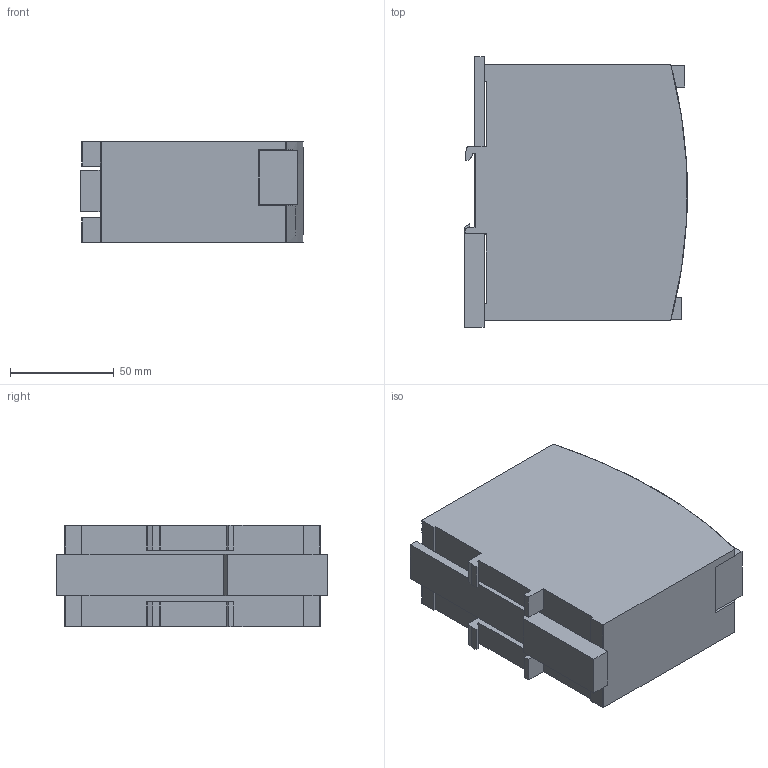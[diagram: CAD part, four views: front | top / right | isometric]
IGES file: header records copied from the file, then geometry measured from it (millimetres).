
Start section: SolidWorks IGES FILE using analytic representation for surfaces
Global section: file name: C:\Vertrieb\SL2_103\SL2_103.IGS; native system: SolidWorks 2004 by SolidWorks Corporation; preprocessor: Version 5.3; author: heinrij; date: 040211.134819; units: millimetre
Bounding box: 107.63 x 130.5 x 49 mm (x, y, z)
Surface area: 58624.1 mm2 (no closed solid volume)
Topology: 0 solids, 0 shells, 672 faces, 6101 edges, 6101 vertices
Faces by surface type: bspline 631, revolution 41
